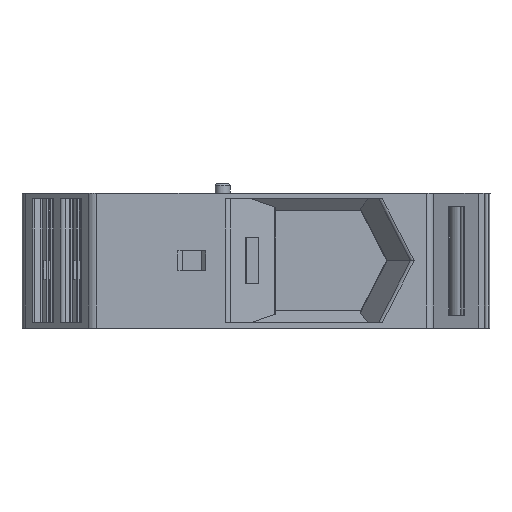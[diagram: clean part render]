
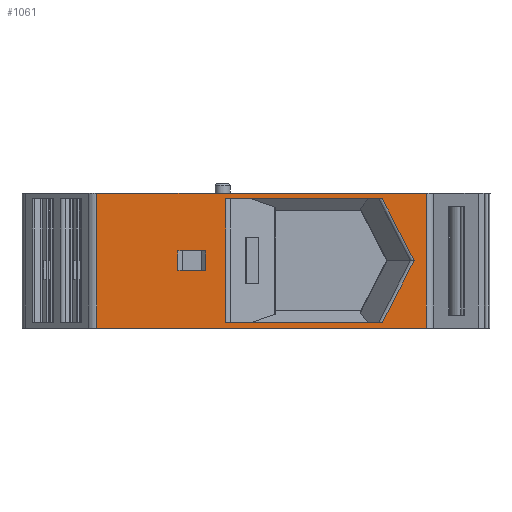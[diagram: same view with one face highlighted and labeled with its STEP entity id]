
A CAD part, left-side view. The second image highlights one B-rep face of the part: STEP entity #1061.
In plain terms, the highlighted planar face has unit normal (-1, 0, 0).
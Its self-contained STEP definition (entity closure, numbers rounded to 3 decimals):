
#718=CARTESIAN_POINT('',(-50.6,14.4,21.1));
#719=VERTEX_POINT('',#718);
#726=CARTESIAN_POINT('',(-50.6,7.,21.1));
#727=VERTEX_POINT('',#726);
#728=CARTESIAN_POINT('',(-50.6,14.4,21.1));
#729=DIRECTION('',(0.,-1.,0.));
#730=VECTOR('',#729,7.4);
#731=LINE('',#728,#730);
#732=EDGE_CURVE('',#719,#727,#731,.T.);
#750=CARTESIAN_POINT('',(-50.6,7.,15.9));
#751=VERTEX_POINT('',#750);
#758=CARTESIAN_POINT('',(-50.6,7.,21.1));
#759=DIRECTION('',(0.,0.,-1.));
#760=VECTOR('',#759,5.2);
#761=LINE('',#758,#760);
#762=EDGE_CURVE('',#727,#751,#761,.T.);
#825=CARTESIAN_POINT('',(-50.6,14.4,15.9));
#826=VERTEX_POINT('',#825);
#833=CARTESIAN_POINT('',(-50.6,14.4,21.1));
#834=DIRECTION('',(0.,0.,-1.));
#835=VECTOR('',#834,5.2);
#836=LINE('',#833,#835);
#837=EDGE_CURVE('',#719,#826,#836,.T.);
#969=CARTESIAN_POINT('',(-50.6,-7.929,18.5));
#970=DIRECTION('',(0.,1.,0.));
#971=DIRECTION('',(-1.,0.,0.));
#972=AXIS2_PLACEMENT_3D('',#969,#971,#970);
#973=PLANE('',#972);
#974=CARTESIAN_POINT('',(-50.6,-51.893,0.5));
#975=VERTEX_POINT('',#974);
#976=CARTESIAN_POINT('',(-50.6,36.036,0.5));
#977=VERTEX_POINT('',#976);
#978=CARTESIAN_POINT('',(-50.6,-51.893,0.5));
#979=DIRECTION('',(0.,1.,0.));
#980=VECTOR('',#979,87.928);
#981=LINE('',#978,#980);
#982=EDGE_CURVE('',#975,#977,#981,.T.);
#983=ORIENTED_EDGE('E3666',*,*,#982,.F.);
#984=CARTESIAN_POINT('',(-50.6,-51.893,36.5));
#985=VERTEX_POINT('',#984);
#986=CARTESIAN_POINT('',(-50.6,-51.893,36.5));
#987=DIRECTION('',(0.,0.,-1.));
#988=VECTOR('',#987,36.);
#989=LINE('',#986,#988);
#990=EDGE_CURVE('',#985,#975,#989,.T.);
#991=ORIENTED_EDGE('E160',*,*,#990,.F.);
#992=CARTESIAN_POINT('',(-50.6,36.036,36.5));
#993=VERTEX_POINT('',#992);
#994=CARTESIAN_POINT('',(-50.6,-51.893,36.5));
#995=DIRECTION('',(0.,1.,0.));
#996=VECTOR('',#995,87.928);
#997=LINE('',#994,#996);
#998=EDGE_CURVE('',#985,#993,#997,.T.);
#999=ORIENTED_EDGE('E3696',*,*,#998,.T.);
#1000=CARTESIAN_POINT('',(-50.6,36.036,36.5));
#1001=DIRECTION('',(0.,0.,-1.));
#1002=VECTOR('',#1001,36.);
#1003=LINE('',#1000,#1002);
#1004=EDGE_CURVE('',#993,#977,#1003,.T.);
#1005=ORIENTED_EDGE('E162',*,*,#1004,.T.);
#1006=EDGE_LOOP('',(#983,#991,#999,#1005));
#1007=FACE_OUTER_BOUND('',#1006,.T.);
#1008=ORIENTED_EDGE('',*,*,#732,.T.);
#1009=ORIENTED_EDGE('',*,*,#762,.T.);
#1010=CARTESIAN_POINT('',(-50.6,14.4,15.9));
#1011=DIRECTION('',(0.,-1.,0.));
#1012=VECTOR('',#1011,7.4);
#1013=LINE('',#1010,#1012);
#1014=EDGE_CURVE('',#826,#751,#1013,.T.);
#1015=ORIENTED_EDGE('E1883',*,*,#1014,.F.);
#1016=ORIENTED_EDGE('E1883',*,*,#837,.F.);
#1017=EDGE_LOOP('',(#1008,#1009,#1015,#1016));
#1018=FACE_BOUND('',#1017,.T.);
#1019=CARTESIAN_POINT('',(-50.6,-48.594,18.5));
#1020=VERTEX_POINT('',#1019);
#1021=CARTESIAN_POINT('',(-50.6,-40.112,2.));
#1022=VERTEX_POINT('',#1021);
#1023=CARTESIAN_POINT('',(-50.6,-48.594,18.5));
#1024=DIRECTION('',(0.,0.457,-0.889));
#1025=VECTOR('',#1024,18.553);
#1026=LINE('',#1023,#1025);
#1027=EDGE_CURVE('',#1020,#1022,#1026,.T.);
#1028=ORIENTED_EDGE('E1991',*,*,#1027,.T.);
#1029=CARTESIAN_POINT('',(-50.6,1.678,2.));
#1030=VERTEX_POINT('',#1029);
#1031=CARTESIAN_POINT('',(-50.6,-40.112,2.));
#1032=DIRECTION('',(0.,1.,0.));
#1033=VECTOR('',#1032,41.789);
#1034=LINE('',#1031,#1033);
#1035=EDGE_CURVE('',#1022,#1030,#1034,.T.);
#1036=ORIENTED_EDGE('E1997',*,*,#1035,.T.);
#1037=CARTESIAN_POINT('',(-50.6,1.678,35.));
#1038=VERTEX_POINT('',#1037);
#1039=CARTESIAN_POINT('',(-50.6,1.678,35.));
#1040=DIRECTION('',(0.,0.,-1.));
#1041=VECTOR('',#1040,33.);
#1042=LINE('',#1039,#1041);
#1043=EDGE_CURVE('',#1038,#1030,#1042,.T.);
#1044=ORIENTED_EDGE('E164',*,*,#1043,.F.);
#1045=CARTESIAN_POINT('',(-50.6,-40.112,35.));
#1046=VERTEX_POINT('',#1045);
#1047=CARTESIAN_POINT('',(-50.6,-40.112,35.));
#1048=DIRECTION('',(0.,1.,0.));
#1049=VECTOR('',#1048,41.789);
#1050=LINE('',#1047,#1049);
#1051=EDGE_CURVE('',#1046,#1038,#1050,.T.);
#1052=ORIENTED_EDGE('E157',*,*,#1051,.F.);
#1053=CARTESIAN_POINT('',(-50.6,-40.112,35.));
#1054=DIRECTION('',(0.,-0.457,-0.889));
#1055=VECTOR('',#1054,18.553);
#1056=LINE('',#1053,#1055);
#1057=EDGE_CURVE('',#1046,#1020,#1056,.T.);
#1058=ORIENTED_EDGE('E158',*,*,#1057,.T.);
#1059=EDGE_LOOP('',(#1028,#1036,#1044,#1052,#1058));
#1060=FACE_BOUND('',#1059,.T.);
#1061=ADVANCED_FACE('F1268',(#1007,#1018,#1060),#973,.T.);
